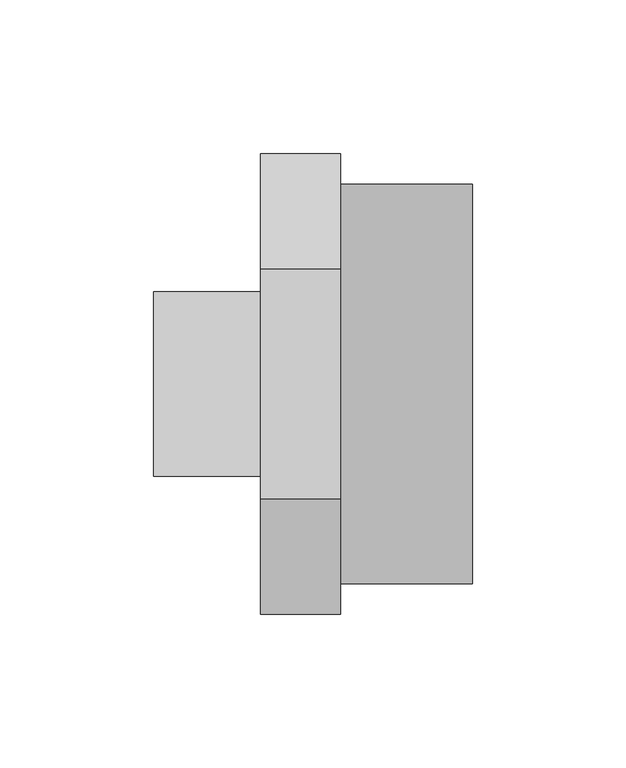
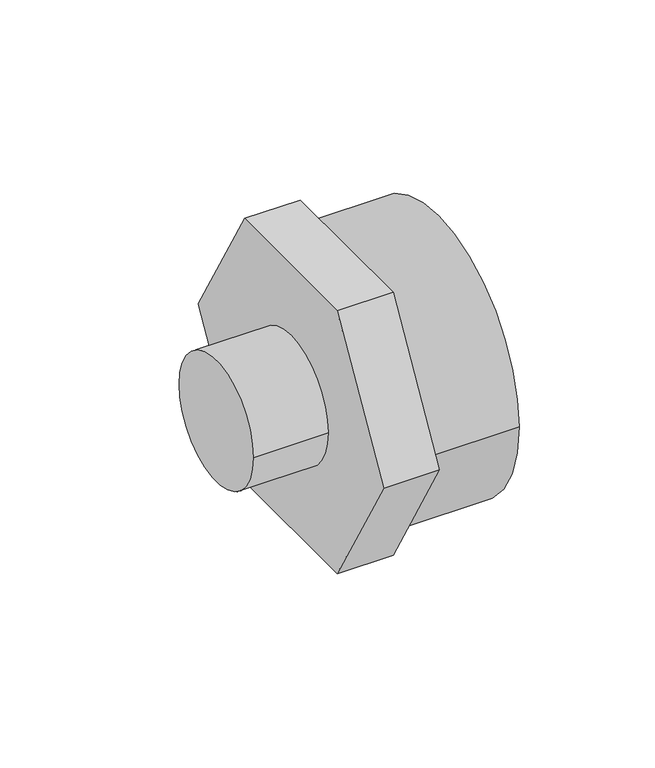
"""IFC4 building model written with IfcOpenShell, lengths in millimetres: pipe fitting geometry, 01011006 : Uniões de redução M/F."""

from ifc_helpers import new_model, si_unit, point, frame, origin, origin_2d, place, context, project, spatial, polyline, circle_curve, trimmed, segment, composite_curve, outline, extrude, source, transform, mapped, element, save


def pipe_fitting_fa3fb816(model_context):
    return source(origin(), model_context, "Body", "SweptSolid", [
        extrude(outline(composite_curve([segment(trimmed(circle_curve(origin_2d(), 30.0), [point((30.0, 0.0))], [point((-30.0, 0.0))], False, "CARTESIAN"), True, "CONTINUOUS"), segment(trimmed(circle_curve(origin_2d(), 30.0), [point((-30.0, 0.0))], [point((30.0, 0.0))], False, "CARTESIAN"), True, "CONTINUOUS")], self_intersect=False)), frame((0.0, 0.0, 0.0), z_axis=(1.0, 0.0, 0.0), x_axis=(0.0, 1.0, 0.0)), (0.0, 0.0, 1.0), 35.0),
        extrude(outline(polyline([(-37.5277675, 65.0), (37.5277675, 65.0), (75.055535, 0.0), (37.5277675, -65.0), (-37.5277675, -65.0), (-75.055535, 0.0), (-37.5277675, 65.0)])), frame((35.0, 0.0, 0.0), z_axis=(1.0, 0.0, 0.0), x_axis=(0.0, 1.0, 0.0)), (0.0, 0.0, 1.0), 26.0),
        extrude(outline(composite_curve([segment(trimmed(circle_curve(origin_2d(), 65.0), [point((-65.0, 0.0))], [point((65.0, 0.0))], False, "CARTESIAN"), True, "CONTINUOUS"), segment(trimmed(circle_curve(origin_2d(), 65.0), [point((65.0, 0.0))], [point((-65.0, 0.0))], False, "CARTESIAN"), True, "CONTINUOUS")], self_intersect=False)), frame((61.0, 0.0, 0.0), z_axis=(1.0, 0.0, 0.0), x_axis=(0.0, 1.0, 0.0)), (0.0, 0.0, 1.0), 43.0),
    ])


if __name__ == "__main__":
    model = new_model("IFC4")
    model_context = context("Model", 3, world=origin())
    ifc_project = project(units=[si_unit("LENGTHUNIT", "METRE", prefix="MILLI")], contexts=[model_context])
    site = spatial("IfcSite", under=ifc_project)
    building = spatial("IfcBuilding", under=site)
    placement = place(None, origin())
    pipe_fitting_shape = pipe_fitting_fa3fb816(model_context)
    element("IfcPipeFitting", 1, ObjectType="01011006 : Uniões de redução M/F", at=placement, inside=building, context=model_context, shape_type="MappedRepresentation", body=[
        mapped(pipe_fitting_shape, transform((0.0, 0.0, 0.0), x_axis=(1.0, 0.0, 0.0), y_axis=(0.0, 1.0, 0.0), z_axis=(0.0, 0.0, 1.0))),
    ])
    save(model, "model.ifc")
